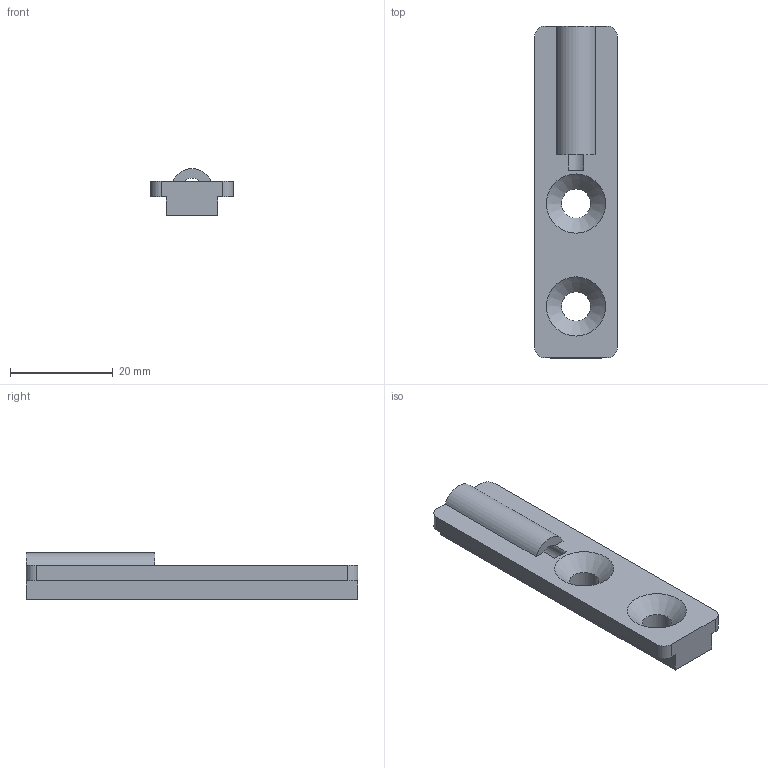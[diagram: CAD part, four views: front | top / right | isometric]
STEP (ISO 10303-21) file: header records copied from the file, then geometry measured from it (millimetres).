
FILE_DESCRIPTION(('Open CASCADE Model'),'2;1');
FILE_NAME('Open CASCADE Shape Model','2026-10-26T02:40:43',('Author'),( 'Open CASCADE'),'Open CASCADE STEP processor 7.9','build123d', 'Unknown');
FILE_SCHEMA(('AUTOMOTIVE_DESIGN { 1 0 10303 214 1 1 1 1 }'));
Length unit declared in the file: millimetre
Products named in the file (1): COMPOUND
Bounding box: 16 x 64.5 x 9.1 mm (x, y, z)
Volume: 4802.2 mm3; surface area: 3596.2 mm2
Topology: 1 solids, 1 shells, 22 faces, 61 edges, 40 vertices
Faces by surface type: plane 12, cylinder 8, cone 2
Full cylindrical faces by diameter (mm): 4.3 x1, 5.7 x2
Entity records: 1540 total; most frequent: CARTESIAN_POINT 320, DIRECTION 225, LINE 131, VECTOR 131, ORIENTED_EDGE 122, PCURVE 122, DEFINITIONAL_REPRESENTATION 122, EDGE_CURVE 61
